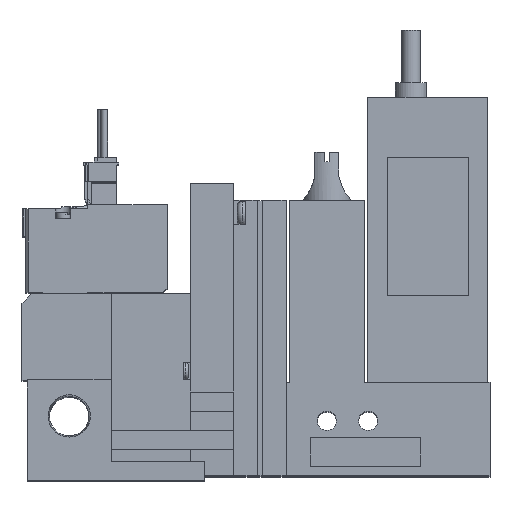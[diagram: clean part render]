
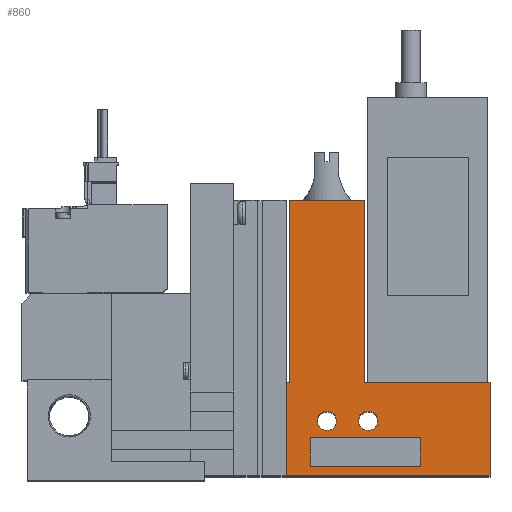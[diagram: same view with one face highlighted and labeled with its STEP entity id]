
A CAD part, top view. The second image highlights one B-rep face of the part: STEP entity #860.
In plain terms, the highlighted planar face has unit normal (0, 0, 1).
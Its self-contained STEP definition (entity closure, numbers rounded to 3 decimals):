
#860=ADVANCED_FACE('',(#1765,#1766,#1767,#1768),#1769,.T.);
#1765=FACE_BOUND('',#3021,.T.);
#1766=FACE_BOUND('',#3022,.T.);
#1767=FACE_BOUND('',#3023,.T.);
#1768=FACE_OUTER_BOUND('',#3024,.T.);
#1769=PLANE('',#3025);
#3021=EDGE_LOOP('',(#6187,#6188,#6189,#6190));
#3022=EDGE_LOOP('',(#6191));
#3023=EDGE_LOOP('',(#6192));
#3024=EDGE_LOOP('',(#6193,#6194,#6195,#6196,#6197,#6198,#6199,#6200));
#3025=AXIS2_PLACEMENT_3D('',#6201,#6202,#6203);
#6187=ORIENTED_EDGE('',*,*,#8494,.T.);
#6188=ORIENTED_EDGE('',*,*,#8644,.T.);
#6189=ORIENTED_EDGE('',*,*,#8645,.T.);
#6190=ORIENTED_EDGE('',*,*,#8590,.T.);
#6191=ORIENTED_EDGE('',*,*,#8646,.T.);
#6192=ORIENTED_EDGE('',*,*,#8647,.T.);
#6193=ORIENTED_EDGE('',*,*,#8648,.F.);
#6194=ORIENTED_EDGE('',*,*,#8607,.T.);
#6195=ORIENTED_EDGE('',*,*,#8567,.T.);
#6196=ORIENTED_EDGE('',*,*,#8649,.T.);
#6197=ORIENTED_EDGE('',*,*,#8650,.T.);
#6198=ORIENTED_EDGE('',*,*,#8651,.T.);
#6199=ORIENTED_EDGE('',*,*,#8652,.T.);
#6200=ORIENTED_EDGE('',*,*,#8632,.T.);
#6201=CARTESIAN_POINT('',(0.0,0.0,10.0));
#6202=DIRECTION('',(0.0,0.0,1.0));
#6203=DIRECTION('',(1.0,0.0,0.0));
#8494=EDGE_CURVE('',#10275,#10280,#10282,.T.);
#8567=EDGE_CURVE('',#10418,#10416,#10419,.T.);
#8590=EDGE_CURVE('',#10456,#10275,#10460,.T.);
#8607=EDGE_CURVE('',#10488,#10418,#10489,.T.);
#8632=EDGE_CURVE('',#10534,#10532,#10535,.T.);
#8644=EDGE_CURVE('',#10280,#10554,#10555,.T.);
#8645=EDGE_CURVE('',#10554,#10456,#10556,.T.);
#8646=EDGE_CURVE('',#10557,#10557,#10558,.T.);
#8647=EDGE_CURVE('',#10559,#10559,#10560,.T.);
#8648=EDGE_CURVE('',#10488,#10532,#10561,.T.);
#8649=EDGE_CURVE('',#10416,#10562,#10563,.T.);
#8650=EDGE_CURVE('',#10562,#10564,#10565,.T.);
#8651=EDGE_CURVE('',#10564,#10566,#10567,.T.);
#8652=EDGE_CURVE('',#10566,#10534,#10568,.T.);
#10275=VERTEX_POINT('',#13158);
#10280=VERTEX_POINT('',#13165);
#10282=LINE('',#13168,#13169);
#10416=VERTEX_POINT('',#13369);
#10418=VERTEX_POINT('',#13372);
#10419=LINE('',#13373,#13374);
#10456=VERTEX_POINT('',#13429);
#10460=LINE('',#13435,#13436);
#10488=VERTEX_POINT('',#13479);
#10489=LINE('',#13480,#13481);
#10532=VERTEX_POINT('',#13547);
#10534=VERTEX_POINT('',#13550);
#10535=LINE('',#13551,#13552);
#10554=VERTEX_POINT('',#13581);
#10555=LINE('',#13582,#13583);
#10556=LINE('',#13584,#13585);
#10557=VERTEX_POINT('',#13586);
#10558=CIRCLE('',#13587,2.0);
#10559=VERTEX_POINT('',#13588);
#10560=CIRCLE('',#13589,2.0);
#10561=LINE('',#13590,#13591);
#10562=VERTEX_POINT('',#13592);
#10563=LINE('',#13593,#13594);
#10564=VERTEX_POINT('',#13595);
#10565=LINE('',#13596,#13597);
#10566=VERTEX_POINT('',#13598);
#10567=LINE('',#13599,#13600);
#10568=LINE('',#13601,#13602);
#13158=CARTESIAN_POINT('',(60.1,2.0,10.0));
#13165=CARTESIAN_POINT('',(60.1,8.0,10.0));
#13168=CARTESIAN_POINT('',(60.1,0.0,10.0));
#13169=VECTOR('',#15732,1.0);
#13369=CARTESIAN_POINT('',(97.6,19.5,10.0));
#13372=CARTESIAN_POINT('',(97.6,0.0,10.0));
#13373=CARTESIAN_POINT('',(97.6,0.0,10.0));
#13374=VECTOR('',#15815,1.0);
#13429=CARTESIAN_POINT('',(83.1,2.0,10.0));
#13435=CARTESIAN_POINT('',(0.0,2.0,10.0));
#13436=VECTOR('',#15842,1.0);
#13479=CARTESIAN_POINT('',(55.1,0.0,10.0));
#13480=CARTESIAN_POINT('',(18.6,0.0,10.0));
#13481=VECTOR('',#15861,1.0);
#13547=CARTESIAN_POINT('',(55.1,19.5,10.0));
#13550=CARTESIAN_POINT('',(55.75,19.5,10.0));
#13551=CARTESIAN_POINT('',(55.75,19.5,10.0));
#13552=VECTOR('',#15886,1.0);
#13581=CARTESIAN_POINT('',(83.1,8.0,10.0));
#13582=CARTESIAN_POINT('',(0.0,8.0,10.0));
#13583=VECTOR('',#15900,1.0);
#13584=CARTESIAN_POINT('',(83.1,0.0,10.0));
#13585=VECTOR('',#15901,1.0);
#13586=CARTESIAN_POINT('',(65.6,11.5,10.0));
#13587=AXIS2_PLACEMENT_3D('',#15902,#15903,#15904);
#13588=CARTESIAN_POINT('',(74.2,11.5,10.0));
#13589=AXIS2_PLACEMENT_3D('',#15905,#15906,#15907);
#13590=CARTESIAN_POINT('',(55.1,0.0,10.0));
#13591=VECTOR('',#15908,1.0);
#13592=CARTESIAN_POINT('',(71.45,19.5,10.0));
#13593=CARTESIAN_POINT('',(97.6,19.5,10.0));
#13594=VECTOR('',#15909,1.0);
#13595=CARTESIAN_POINT('',(71.45,57.5,10.0));
#13596=CARTESIAN_POINT('',(71.45,19.5,10.0));
#13597=VECTOR('',#15910,1.0);
#13598=CARTESIAN_POINT('',(55.75,57.5,10.0));
#13599=CARTESIAN_POINT('',(71.45,57.5,10.0));
#13600=VECTOR('',#15911,1.0);
#13601=CARTESIAN_POINT('',(55.75,57.5,10.0));
#13602=VECTOR('',#15912,1.0);
#15732=DIRECTION('',(0.0,1.0,0.0));
#15815=DIRECTION('',(0.0,1.0,0.0));
#15842=DIRECTION('',(-1.0,0.0,0.0));
#15861=DIRECTION('',(1.0,0.0,0.0));
#15886=DIRECTION('',(-1.0,0.0,0.0));
#15900=DIRECTION('',(1.0,0.0,0.0));
#15901=DIRECTION('',(0.0,-1.0,0.0));
#15902=CARTESIAN_POINT('',(63.6,11.5,10.0));
#15903=DIRECTION('',(0.0,0.0,-1.0));
#15904=DIRECTION('',(1.0,0.0,0.0));
#15905=CARTESIAN_POINT('',(72.2,11.5,10.0));
#15906=DIRECTION('',(0.0,0.0,-1.0));
#15907=DIRECTION('',(1.0,0.0,0.0));
#15908=DIRECTION('',(0.0,1.0,0.0));
#15909=DIRECTION('',(-1.0,0.0,0.0));
#15910=DIRECTION('',(0.0,1.0,0.0));
#15911=DIRECTION('',(-1.0,0.0,0.0));
#15912=DIRECTION('',(0.0,-1.0,0.0));
